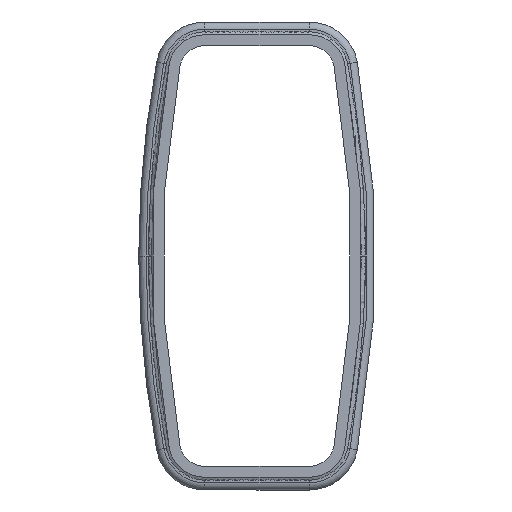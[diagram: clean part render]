
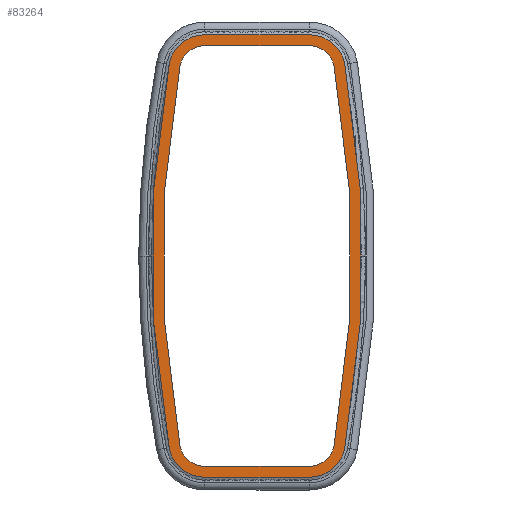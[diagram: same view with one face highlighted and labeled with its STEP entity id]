
A CAD part, left-side view. The second image highlights one B-rep face of the part: STEP entity #83264.
In plain terms, the highlighted planar face has unit normal (-1, 0, 0).
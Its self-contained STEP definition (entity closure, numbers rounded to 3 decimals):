
#173 = AXIS2_PLACEMENT_3D ( 'NONE', #11671, #58783, #119535 ) ;
#2848 = EDGE_CURVE ( 'NONE', #112935, #121496, #84370, .T. ) ;
#3576 = DIRECTION ( 'NONE',  ( 0., 0., 1. ) ) ;
#3997 = AXIS2_PLACEMENT_3D ( 'NONE', #84568, #103571, #3576 ) ;
#4430 = EDGE_CURVE ( 'NONE', #47625, #28889, #90001, .T. ) ;
#5432 = CIRCLE ( 'NONE', #22116, 287.607 ) ;
#5662 = DIRECTION ( 'NONE',  ( -1., 0., 0. ) ) ;
#5860 = DIRECTION ( 'NONE',  ( 0., 0., 1. ) ) ;
#6716 = ORIENTED_EDGE ( 'NONE', *, *, #64054, .F. ) ;
#6907 = DIRECTION ( 'NONE',  ( -1., 0., 0. ) ) ;
#9790 = CIRCLE ( 'NONE', #62013, 10. ) ;
#10405 = AXIS2_PLACEMENT_3D ( 'NONE', #35084, #5662, #55328 ) ;
#10458 = DIRECTION ( 'NONE',  ( -1., 0., 0. ) ) ;
#11671 = CARTESIAN_POINT ( 'NONE',  ( 0., -258.607, 0. ) ) ;
#12061 = EDGE_LOOP ( 'NONE', ( #6716, #12676, #51948, #68684, #125000, #94573, #47431, #127772 ) ) ;
#12676 = ORIENTED_EDGE ( 'NONE', *, *, #71776, .T. ) ;
#12900 = CARTESIAN_POINT ( 'NONE',  ( 0., -14.312, 57.8 ) ) ;
#13542 = DIRECTION ( 'NONE',  ( 0., 1., 0. ) ) ;
#13958 = DIRECTION ( 'NONE',  ( 1., 0., 0. ) ) ;
#13981 = ORIENTED_EDGE ( 'NONE', *, *, #105685, .T. ) ;
#14765 = FACE_BOUND ( 'NONE', #12061, .T. ) ;
#15408 = AXIS2_PLACEMENT_3D ( 'NONE', #89519, #10458, #28770 ) ;
#15636 = ORIENTED_EDGE ( 'NONE', *, *, #119659, .T. ) ;
#15802 = AXIS2_PLACEMENT_3D ( 'NONE', #67018, #6907, #116675 ) ;
#15832 = LINE ( 'NONE', #125635, #60034 ) ;
#17709 = CARTESIAN_POINT ( 'NONE',  ( 0., -258.607, 0. ) ) ;
#18047 = CARTESIAN_POINT ( 'NONE',  ( 0., 24.144, 52.63 ) ) ;
#19413 = VERTEX_POINT ( 'NONE', #35643 ) ;
#19863 = ORIENTED_EDGE ( 'NONE', *, *, #119550, .F. ) ;
#22031 = LINE ( 'NONE', #32481, #54360 ) ;
#22116 = AXIS2_PLACEMENT_3D ( 'NONE', #124373, #13958, #25045 ) ;
#22493 = VERTEX_POINT ( 'NONE', #33556 ) ;
#22941 = VERTEX_POINT ( 'NONE', #70658 ) ;
#24474 = DIRECTION ( 'NONE',  ( 0., 0., 1. ) ) ;
#25045 = DIRECTION ( 'NONE',  ( 0., 0., -1. ) ) ;
#28770 = DIRECTION ( 'NONE',  ( 0., 0., 1. ) ) ;
#28889 = VERTEX_POINT ( 'NONE', #47206 ) ;
#31376 = CIRCLE ( 'NONE', #41821, 10. ) ;
#32481 = CARTESIAN_POINT ( 'NONE',  ( 0., -258.607, -57.8 ) ) ;
#33556 = CARTESIAN_POINT ( 'NONE',  ( 0., 21.194, -52.081 ) ) ;
#33897 = DIRECTION ( 'NONE',  ( 1., 0., 0. ) ) ;
#35074 = CARTESIAN_POINT ( 'NONE',  ( 0., -14.312, 50.8 ) ) ;
#35084 = CARTESIAN_POINT ( 'NONE',  ( 0., 14.312, 50.8 ) ) ;
#35643 = CARTESIAN_POINT ( 'NONE',  ( 0., 14.312, -60.8 ) ) ;
#35668 = ORIENTED_EDGE ( 'NONE', *, *, #105408, .T. ) ;
#38215 = CARTESIAN_POINT ( 'NONE',  ( 0., 21.194, 52.081 ) ) ;
#41821 = AXIS2_PLACEMENT_3D ( 'NONE', #58553, #76868, #57913 ) ;
#43115 = CARTESIAN_POINT ( 'NONE',  ( 0., 14.312, -57.8 ) ) ;
#43846 = EDGE_CURVE ( 'NONE', #61667, #28889, #15832, .T. ) ;
#44383 = CARTESIAN_POINT ( 'NONE',  ( 0., 22.5, -60.8 ) ) ;
#44603 = CIRCLE ( 'NONE', #84234, 287.607 ) ;
#45070 = DIRECTION ( 'NONE',  ( -1., 0., 0. ) ) ;
#46738 = VERTEX_POINT ( 'NONE', #117607 ) ;
#47191 = DIRECTION ( 'NONE',  ( 0., -1., 0. ) ) ;
#47206 = CARTESIAN_POINT ( 'NONE',  ( 0., -14.312, 60.8 ) ) ;
#47398 = VECTOR ( 'NONE', #84225, 1000. ) ;
#47431 = ORIENTED_EDGE ( 'NONE', *, *, #79674, .F. ) ;
#47625 = VERTEX_POINT ( 'NONE', #82049 ) ;
#51948 = ORIENTED_EDGE ( 'NONE', *, *, #60574, .F. ) ;
#52208 = VERTEX_POINT ( 'NONE', #18047 ) ;
#53030 = DIRECTION ( 'NONE',  ( 0., -1., 0. ) ) ;
#53494 = CARTESIAN_POINT ( 'NONE',  ( 0., 258.607, 0. ) ) ;
#54136 = DIRECTION ( 'NONE',  ( 0., 0., 1. ) ) ;
#54360 = VECTOR ( 'NONE', #13542, 1000. ) ;
#54725 = CIRCLE ( 'NONE', #73473, 7. ) ;
#54727 = CARTESIAN_POINT ( 'NONE',  ( 0., 14.312, 60.8 ) ) ;
#55328 = DIRECTION ( 'NONE',  ( 0., 0., 1. ) ) ;
#55560 = EDGE_CURVE ( 'NONE', #112935, #100965, #117947, .T. ) ;
#56629 = DIRECTION ( 'NONE',  ( -1., 0., 0. ) ) ;
#57316 = EDGE_CURVE ( 'NONE', #72463, #69934, #59607, .T. ) ;
#57913 = DIRECTION ( 'NONE',  ( 0., 0., 1. ) ) ;
#58553 = CARTESIAN_POINT ( 'NONE',  ( 0., -14.312, -50.8 ) ) ;
#58783 = DIRECTION ( 'NONE',  ( 1., 0., 0. ) ) ;
#59607 = CIRCLE ( 'NONE', #78660, 284.607 ) ;
#60034 = VECTOR ( 'NONE', #47191, 1000. ) ;
#60425 = DIRECTION ( 'NONE',  ( 0., 0., 1. ) ) ;
#60574 = EDGE_CURVE ( 'NONE', #22493, #103314, #124909, .T. ) ;
#61078 = CARTESIAN_POINT ( 'NONE',  ( 0., -21.194, -52.081 ) ) ;
#61667 = VERTEX_POINT ( 'NONE', #54727 ) ;
#62013 = AXIS2_PLACEMENT_3D ( 'NONE', #90484, #108847, #60425 ) ;
#63909 = EDGE_CURVE ( 'NONE', #69650, #52208, #44603, .T. ) ;
#64054 = EDGE_CURVE ( 'NONE', #114342, #69934, #117672, .T. ) ;
#64703 = CIRCLE ( 'NONE', #10405, 10. ) ;
#65602 = CARTESIAN_POINT ( 'NONE',  ( 0., 14.312, 57.8 ) ) ;
#67018 = CARTESIAN_POINT ( 'NONE',  ( 0., -258.607, 0. ) ) ;
#68684 = ORIENTED_EDGE ( 'NONE', *, *, #95002, .T. ) ;
#69650 = VERTEX_POINT ( 'NONE', #72321 ) ;
#69934 = VERTEX_POINT ( 'NONE', #61078 ) ;
#70658 = CARTESIAN_POINT ( 'NONE',  ( 0., -14.312, -60.8 ) ) ;
#71776 = EDGE_CURVE ( 'NONE', #114342, #103314, #22031, .T. ) ;
#72321 = CARTESIAN_POINT ( 'NONE',  ( 0., 24.144, -52.63 ) ) ;
#72463 = VERTEX_POINT ( 'NONE', #107294 ) ;
#73473 = AXIS2_PLACEMENT_3D ( 'NONE', #35074, #56629, #74924 ) ;
#74924 = DIRECTION ( 'NONE',  ( 0., 0., 1. ) ) ;
#75525 = FACE_OUTER_BOUND ( 'NONE', #89181, .T. ) ;
#76868 = DIRECTION ( 'NONE',  ( -1., 0., 0. ) ) ;
#78660 = AXIS2_PLACEMENT_3D ( 'NONE', #53494, #33897, #54136 ) ;
#79674 = EDGE_CURVE ( 'NONE', #72463, #121496, #54725, .T. ) ;
#81230 = VECTOR ( 'NONE', #53030, 1000. ) ;
#82049 = CARTESIAN_POINT ( 'NONE',  ( 0., -24.144, 52.63 ) ) ;
#83264 = ADVANCED_FACE ( 'NONE', ( #75525, #14765 ), #93826, .T. ) ;
#83869 = EDGE_CURVE ( 'NONE', #47625, #46738, #5432, .T. ) ;
#84225 = DIRECTION ( 'NONE',  ( 0., 1., 0. ) ) ;
#84234 = AXIS2_PLACEMENT_3D ( 'NONE', #17709, #115095, #86963 ) ;
#84370 = LINE ( 'NONE', #114434, #81230 ) ;
#84568 = CARTESIAN_POINT ( 'NONE',  ( 0., 14.312, -50.8 ) ) ;
#85709 = CIRCLE ( 'NONE', #173, 284.607 ) ;
#86177 = ORIENTED_EDGE ( 'NONE', *, *, #83869, .F. ) ;
#86963 = DIRECTION ( 'NONE',  ( 0., 0., 1. ) ) ;
#89181 = EDGE_LOOP ( 'NONE', ( #19863, #13981, #86177, #102971, #102883, #35668, #103374, #15636 ) ) ;
#89519 = CARTESIAN_POINT ( 'NONE',  ( 0., -14.312, -50.8 ) ) ;
#90001 = CIRCLE ( 'NONE', #110915, 10. ) ;
#90484 = CARTESIAN_POINT ( 'NONE',  ( 0., 14.312, -50.8 ) ) ;
#93826 = PLANE ( 'NONE',  #15802 ) ;
#94573 = ORIENTED_EDGE ( 'NONE', *, *, #2848, .T. ) ;
#95002 = EDGE_CURVE ( 'NONE', #22493, #100965, #85709, .T. ) ;
#97329 = CARTESIAN_POINT ( 'NONE',  ( 0., 14.312, 50.8 ) ) ;
#100965 = VERTEX_POINT ( 'NONE', #38215 ) ;
#102883 = ORIENTED_EDGE ( 'NONE', *, *, #43846, .F. ) ;
#102971 = ORIENTED_EDGE ( 'NONE', *, *, #4430, .T. ) ;
#103314 = VERTEX_POINT ( 'NONE', #43115 ) ;
#103374 = ORIENTED_EDGE ( 'NONE', *, *, #63909, .F. ) ;
#103571 = DIRECTION ( 'NONE',  ( -1., 0., 0. ) ) ;
#103862 = LINE ( 'NONE', #44383, #47398 ) ;
#104220 = DIRECTION ( 'NONE',  ( -1., 0., 0. ) ) ;
#105408 = EDGE_CURVE ( 'NONE', #61667, #52208, #64703, .T. ) ;
#105685 = EDGE_CURVE ( 'NONE', #22941, #46738, #31376, .T. ) ;
#107294 = CARTESIAN_POINT ( 'NONE',  ( 0., -21.194, 52.081 ) ) ;
#108847 = DIRECTION ( 'NONE',  ( -1., 0., 0. ) ) ;
#110915 = AXIS2_PLACEMENT_3D ( 'NONE', #114020, #104220, #24474 ) ;
#112935 = VERTEX_POINT ( 'NONE', #65602 ) ;
#114020 = CARTESIAN_POINT ( 'NONE',  ( 0., -14.312, 50.8 ) ) ;
#114342 = VERTEX_POINT ( 'NONE', #126212 ) ;
#114434 = CARTESIAN_POINT ( 'NONE',  ( 0., -258.607, 57.8 ) ) ;
#115095 = DIRECTION ( 'NONE',  ( 1., 0., 0. ) ) ;
#116675 = DIRECTION ( 'NONE',  ( 0., 0., 1. ) ) ;
#117607 = CARTESIAN_POINT ( 'NONE',  ( 0., -24.144, -52.63 ) ) ;
#117672 = CIRCLE ( 'NONE', #15408, 7. ) ;
#117947 = CIRCLE ( 'NONE', #118041, 7. ) ;
#118041 = AXIS2_PLACEMENT_3D ( 'NONE', #97329, #45070, #5860 ) ;
#119535 = DIRECTION ( 'NONE',  ( 0., 0., 1. ) ) ;
#119550 = EDGE_CURVE ( 'NONE', #22941, #19413, #103862, .T. ) ;
#119659 = EDGE_CURVE ( 'NONE', #69650, #19413, #9790, .T. ) ;
#121496 = VERTEX_POINT ( 'NONE', #12900 ) ;
#124373 = CARTESIAN_POINT ( 'NONE',  ( 0., 258.607, 0. ) ) ;
#124909 = CIRCLE ( 'NONE', #3997, 7. ) ;
#125000 = ORIENTED_EDGE ( 'NONE', *, *, #55560, .F. ) ;
#125635 = CARTESIAN_POINT ( 'NONE',  ( 0., 22.5, 60.8 ) ) ;
#126212 = CARTESIAN_POINT ( 'NONE',  ( 0., -14.312, -57.8 ) ) ;
#127772 = ORIENTED_EDGE ( 'NONE', *, *, #57316, .T. ) ;
